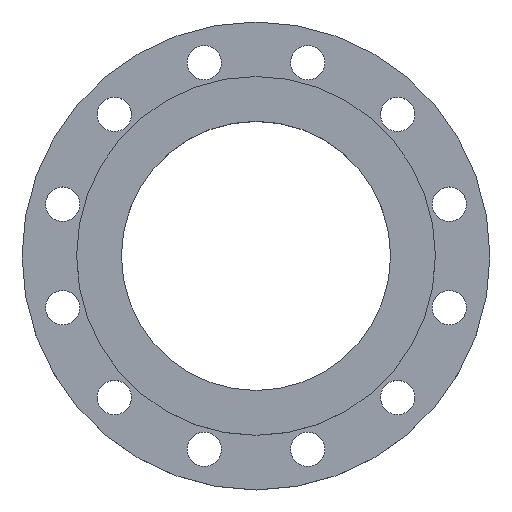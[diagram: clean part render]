
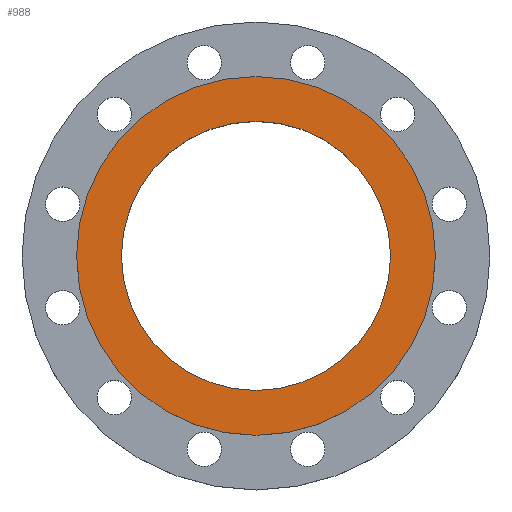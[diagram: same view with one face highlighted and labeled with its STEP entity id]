
A CAD part, top view. The second image highlights one B-rep face of the part: STEP entity #988.
In plain terms, the highlighted planar face has unit normal (0, 0, 1).
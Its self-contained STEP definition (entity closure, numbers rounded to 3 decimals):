
#32 = CARTESIAN_POINT ( 'NONE',  ( -172.5, 0., 30. ) ) ;
#44 = CARTESIAN_POINT ( 'NONE',  ( 172.5, 0., 30. ) ) ;
#60 = DIRECTION ( 'NONE',  ( 1., 0., 0. ) ) ;
#62 = DIRECTION ( 'NONE',  ( 0., 0., 1. ) ) ;
#63 = CARTESIAN_POINT ( 'NONE',  ( 0., 0., 30. ) ) ;
#137 = DIRECTION ( 'NONE',  ( 1., 0., 0. ) ) ;
#138 = DIRECTION ( 'NONE',  ( 0., 0., 1. ) ) ;
#141 = CARTESIAN_POINT ( 'NONE',  ( 129.4, 0., 30. ) ) ;
#142 = PLANE ( 'NONE',  #933 ) ;
#144 = FACE_BOUND ( 'NONE', #1493, .T. ) ;
#145 = FACE_OUTER_BOUND ( 'NONE', #1158, .T. ) ;
#227 = EDGE_CURVE ( 'NONE', #749, #751, #980, .T. ) ;
#265 = DIRECTION ( 'NONE',  ( 1., 0., 0. ) ) ;
#267 = DIRECTION ( 'NONE',  ( 0., 0., 1. ) ) ;
#270 = CARTESIAN_POINT ( 'NONE',  ( 0., 0., 30. ) ) ;
#396 = CARTESIAN_POINT ( 'NONE',  ( -129.4, 0., 30. ) ) ;
#397 = CARTESIAN_POINT ( 'NONE',  ( 129.4, 0., 30. ) ) ;
#508 = DIRECTION ( 'NONE',  ( 1., 0., 0. ) ) ;
#509 = DIRECTION ( 'NONE',  ( 0., 0., 1. ) ) ;
#510 = CARTESIAN_POINT ( 'NONE',  ( 0., 0., 30. ) ) ;
#597 = EDGE_CURVE ( 'NONE', #1174, #1149, #995, .T. ) ;
#643 = DIRECTION ( 'NONE',  ( 1., 0., 0. ) ) ;
#644 = DIRECTION ( 'NONE',  ( 0., 0., 1. ) ) ;
#645 = CARTESIAN_POINT ( 'NONE',  ( 0., 0., 30. ) ) ;
#749 = VERTEX_POINT ( 'NONE', #397 ) ;
#751 = VERTEX_POINT ( 'NONE', #396 ) ;
#807 = ORIENTED_EDGE ( 'NONE', *, *, #888, .T. ) ;
#888 = EDGE_CURVE ( 'NONE', #1149, #1174, #1113, .T. ) ;
#925 = AXIS2_PLACEMENT_3D ( 'NONE', #270, #267, #265 ) ;
#933 = AXIS2_PLACEMENT_3D ( 'NONE', #141, #138, #137 ) ;
#961 = AXIS2_PLACEMENT_3D ( 'NONE', #63, #62, #60 ) ;
#980 = CIRCLE ( 'NONE', #1243, 129.4 ) ;
#988 = ADVANCED_FACE ( 'NONE', ( #145, #144 ), #142, .T. ) ;
#995 = CIRCLE ( 'NONE', #1013, 172.5 ) ;
#1013 = AXIS2_PLACEMENT_3D ( 'NONE', #510, #509, #508 ) ;
#1097 = EDGE_CURVE ( 'NONE', #751, #749, #1165, .T. ) ;
#1113 = CIRCLE ( 'NONE', #925, 172.5 ) ;
#1140 = ORIENTED_EDGE ( 'NONE', *, *, #597, .T. ) ;
#1149 = VERTEX_POINT ( 'NONE', #44 ) ;
#1158 = EDGE_LOOP ( 'NONE', ( #807, #1140 ) ) ;
#1165 = CIRCLE ( 'NONE', #961, 129.4 ) ;
#1174 = VERTEX_POINT ( 'NONE', #32 ) ;
#1243 = AXIS2_PLACEMENT_3D ( 'NONE', #645, #644, #643 ) ;
#1368 = ORIENTED_EDGE ( 'NONE', *, *, #227, .F. ) ;
#1491 = ORIENTED_EDGE ( 'NONE', *, *, #1097, .F. ) ;
#1493 = EDGE_LOOP ( 'NONE', ( #1368, #1491 ) ) ;
